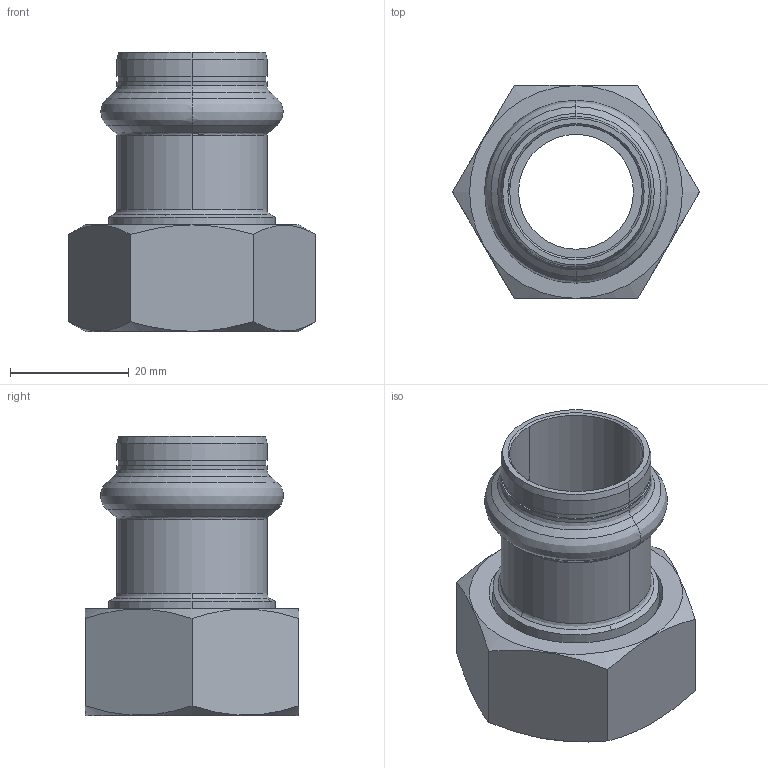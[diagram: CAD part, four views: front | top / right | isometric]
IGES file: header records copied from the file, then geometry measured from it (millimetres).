
Start section: Elysium IGES Interface
Global section: file name: C:\3d modellen sudo\C-Pr VP\SP8359GV\8359GVW221.igs; native system: CoCreate Modeling 17.00A  17-Jun-2010; preprocessor: CoCreate IGES_3D V2.2; author: Unknown; organization: Unknown; date: 20130305.134157; units: millimetre
Bounding box: 41.57 x 36 x 47 mm (x, y, z)
Volume: 14798.8 mm3; surface area: 11185.7 mm2
Topology: 2 solids, 2 shells, 78 faces, 186 edges, 112 vertices
Faces by surface type: bspline 78
